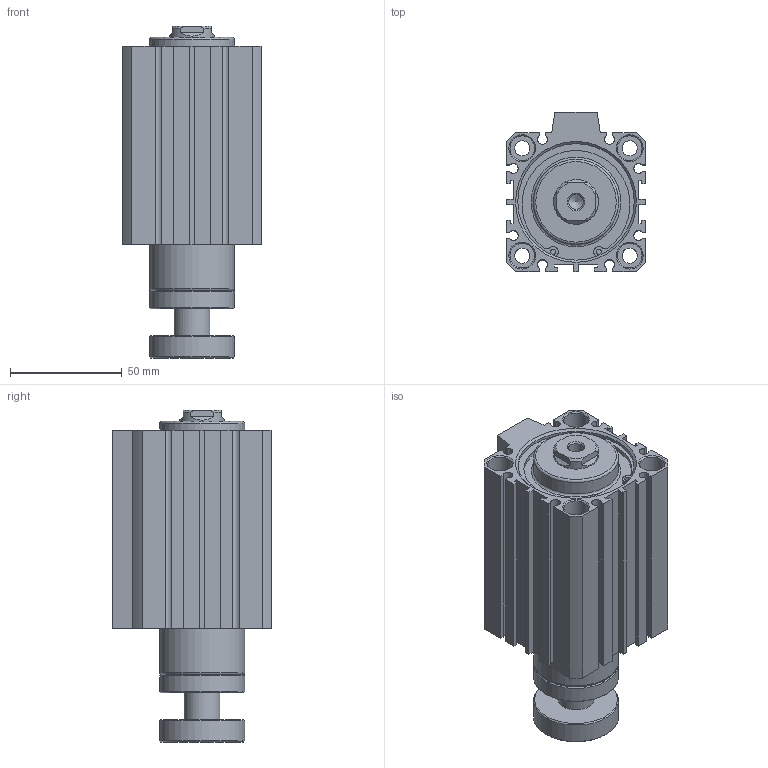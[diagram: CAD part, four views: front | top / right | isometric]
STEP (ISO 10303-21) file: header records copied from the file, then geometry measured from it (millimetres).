
FILE_DESCRIPTION((''),'2;1');
FILE_NAME('I:\3D電子目錄\氣缸\JDAR\JDAR\JDAR50\JDAR50x60.stp','2007-03-14T10:59:18',('662F206'),(''),'Autodesk Inventor 11','Autodesk Inventor 11','');
FILE_SCHEMA(('AUTOMOTIVE_DESIGN { 1 0 10303 214 1 1 1 1 }'));
Length unit declared in the file: millimetre
Products named in the file (3): JDAR50; R 形環 52
Assembly tree (3 placements, depth 2):
  JDAR50
    JDAR50
    R 形環 52  x2
Bounding box: 62 x 71 x 148.3 mm (x, y, z)
Volume: 352781.6 mm3; surface area: 65812.7 mm2
Topology: 3 solids, 3 shells, 193 faces, 472 edges, 309 vertices
Faces by surface type: plane 110, cylinder 54, cone 23, bspline 4, torus 2
Full cylindrical faces by diameter (mm): 2.3 x4, 2.7 x2, 6.8 x4, 11 x8, 16 x1, 20 x1, 38 x4, 52 x4, 55 x2
Entity records: 5195 total; most frequent: CARTESIAN_POINT 989, DIRECTION 870, ORIENTED_EDGE 764, EDGE_CURVE 382, AXIS2_PLACEMENT_3D 313, VERTEX_POINT 282, EDGE_LOOP 270, VECTOR 244
